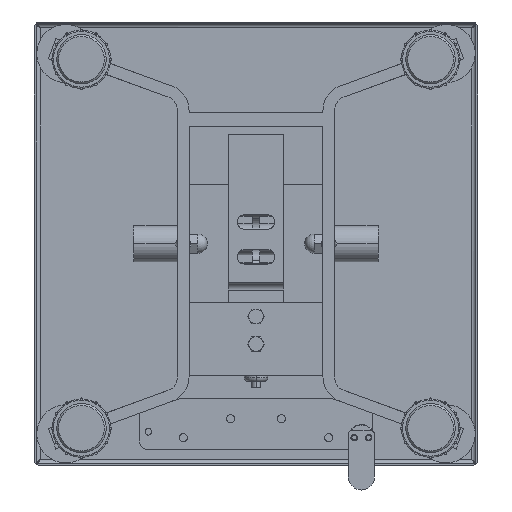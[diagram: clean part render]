
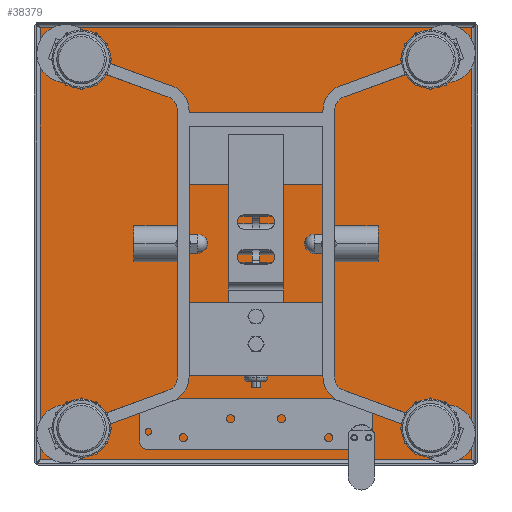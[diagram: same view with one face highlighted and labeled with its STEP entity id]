
A CAD part, front view. The second image highlights one B-rep face of the part: STEP entity #38379.
In plain terms, the highlighted planar face has unit normal (0, -1, 0).
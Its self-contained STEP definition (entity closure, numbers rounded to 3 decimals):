
#36860=DIRECTION('',(1.,0.,0.));
#36861=VECTOR('',#36860,296.9);
#36862=CARTESIAN_POINT('',(-148.45,62.5,148.45));
#36863=LINE('',#36862,#36861);
#36930=CARTESIAN_POINT('',(-148.45,62.5,148.45));
#36938=DIRECTION('',(0.,0.,1.));
#36939=VECTOR('',#36938,296.9);
#36940=CARTESIAN_POINT('',(-148.45,62.5,-148.45));
#36941=LINE('',#36940,#36939);
#36954=CARTESIAN_POINT('',(148.45,62.5,-148.45));
#36962=DIRECTION('',(0.,0.,-1.));
#36963=VECTOR('',#36962,296.9);
#36964=CARTESIAN_POINT('',(148.45,62.5,148.45));
#36965=LINE('',#36964,#36963);
#37103=DIRECTION('',(-1.,0.,0.));
#37104=VECTOR('',#37103,296.9);
#37105=CARTESIAN_POINT('',(148.45,62.5,-148.45));
#37106=LINE('',#37105,#37104);
#37175=CARTESIAN_POINT('',(130.719,62.5,-130.728));
#37176=DIRECTION('',(0.,1.,0.));
#37177=DIRECTION('',(-0.461,0.,0.887));
#37178=AXIS2_PLACEMENT_3D('',#37175,#37176,#37177);
#37180=CARTESIAN_POINT('',(130.719,62.5,-130.728));
#37181=DIRECTION('',(0.,1.,0.));
#37182=DIRECTION('',(0.461,0.,-0.887));
#37183=AXIS2_PLACEMENT_3D('',#37180,#37181,#37182);
#37297=CARTESIAN_POINT('',(-130.719,62.5,-130.728));
#37298=DIRECTION('',(0.,1.,0.));
#37299=DIRECTION('',(-0.461,0.,0.887));
#37300=AXIS2_PLACEMENT_3D('',#37297,#37298,#37299);
#37302=CARTESIAN_POINT('',(-130.719,62.5,-130.728));
#37303=DIRECTION('',(0.,1.,0.));
#37304=DIRECTION('',(0.461,0.,-0.887));
#37305=AXIS2_PLACEMENT_3D('',#37302,#37303,#37304);
#37419=CARTESIAN_POINT('',(130.719,62.5,130.728));
#37420=DIRECTION('',(0.,1.,0.));
#37421=DIRECTION('',(-0.461,0.,0.887));
#37422=AXIS2_PLACEMENT_3D('',#37419,#37420,#37421);
#37424=CARTESIAN_POINT('',(130.719,62.5,130.728));
#37425=DIRECTION('',(0.,1.,0.));
#37426=DIRECTION('',(0.461,0.,-0.887));
#37427=AXIS2_PLACEMENT_3D('',#37424,#37425,#37426);
#37541=CARTESIAN_POINT('',(-130.719,62.5,130.728));
#37542=DIRECTION('',(0.,1.,0.));
#37543=DIRECTION('',(-0.461,0.,0.887));
#37544=AXIS2_PLACEMENT_3D('',#37541,#37542,#37543);
#37546=CARTESIAN_POINT('',(-130.719,62.5,130.728));
#37547=DIRECTION('',(0.,1.,0.));
#37548=DIRECTION('',(0.461,0.,-0.887));
#37549=AXIS2_PLACEMENT_3D('',#37546,#37547,#37548);
#37685=CARTESIAN_POINT('',(-148.45,62.5,-148.45));
#37686=VERTEX_POINT('',#37685);
#37687=VERTEX_POINT('',#36930);
#37702=CARTESIAN_POINT('',(148.45,62.5,148.45));
#37703=VERTEX_POINT('',#37702);
#37704=VERTEX_POINT('',#36954);
#37850=CARTESIAN_POINT('',(123.481,62.5,-116.796));
#37851=CARTESIAN_POINT('',(137.957,62.5,-144.661));
#37852=VERTEX_POINT('',#37850);
#37853=VERTEX_POINT('',#37851);
#37854=CARTESIAN_POINT('',(-137.957,62.5,-116.796));
#37855=CARTESIAN_POINT('',(-123.481,62.5,-144.661));
#37856=VERTEX_POINT('',#37854);
#37857=VERTEX_POINT('',#37855);
#37858=CARTESIAN_POINT('',(123.481,62.5,144.661));
#37859=CARTESIAN_POINT('',(137.957,62.5,116.796));
#37860=VERTEX_POINT('',#37858);
#37861=VERTEX_POINT('',#37859);
#37862=CARTESIAN_POINT('',(-137.957,62.5,144.661));
#37863=CARTESIAN_POINT('',(-123.481,62.5,116.796));
#37864=VERTEX_POINT('',#37862);
#37865=VERTEX_POINT('',#37863);
#38342=CARTESIAN_POINT('',(0.,62.5,0.));
#38343=DIRECTION('',(0.,1.,0.));
#38344=DIRECTION('',(1.,0.,0.));
#38345=AXIS2_PLACEMENT_3D('',#38342,#38343,#38344);
#38346=PLANE('',#38345);
#38348=ORIENTED_EDGE('',*,*,#38347,.T.);
#38350=ORIENTED_EDGE('',*,*,#38349,.T.);
#38351=ORIENTED_EDGE('',*,*,#38327,.T.);
#38352=ORIENTED_EDGE('',*,*,#38095,.T.);
#38353=EDGE_LOOP('',(#38348,#38350,#38351,#38352));
#38354=FACE_OUTER_BOUND('',#38353,.F.);
#38356=ORIENTED_EDGE('',*,*,#38355,.F.);
#38358=ORIENTED_EDGE('',*,*,#38357,.F.);
#38359=EDGE_LOOP('',(#38356,#38358));
#38360=FACE_BOUND('',#38359,.F.);
#38362=ORIENTED_EDGE('',*,*,#38361,.F.);
#38364=ORIENTED_EDGE('',*,*,#38363,.F.);
#38365=EDGE_LOOP('',(#38362,#38364));
#38366=FACE_BOUND('',#38365,.F.);
#38368=ORIENTED_EDGE('',*,*,#38367,.F.);
#38370=ORIENTED_EDGE('',*,*,#38369,.F.);
#38371=EDGE_LOOP('',(#38368,#38370));
#38372=FACE_BOUND('',#38371,.F.);
#38374=ORIENTED_EDGE('',*,*,#38373,.F.);
#38376=ORIENTED_EDGE('',*,*,#38375,.F.);
#38377=EDGE_LOOP('',(#38374,#38376));
#38378=FACE_BOUND('',#38377,.F.);
#38379=ADVANCED_FACE('',(#38354,#38360,#38366,#38372,#38378),#38346,.F.);
#37179=CIRCLE('',#37178,15.7);
#37184=CIRCLE('',#37183,15.7);
#37301=CIRCLE('',#37300,15.7);
#37306=CIRCLE('',#37305,15.7);
#37423=CIRCLE('',#37422,15.7);
#37428=CIRCLE('',#37427,15.7);
#37545=CIRCLE('',#37544,15.7);
#37550=CIRCLE('',#37549,15.7);
#38095=EDGE_CURVE('',#37687,#37703,#36863,.T.);
#38327=EDGE_CURVE('',#37686,#37687,#36941,.T.);
#38347=EDGE_CURVE('',#37703,#37704,#36965,.T.);
#38349=EDGE_CURVE('',#37704,#37686,#37106,.T.);
#38355=EDGE_CURVE('',#37852,#37853,#37179,.T.);
#38357=EDGE_CURVE('',#37853,#37852,#37184,.T.);
#38361=EDGE_CURVE('',#37856,#37857,#37301,.T.);
#38363=EDGE_CURVE('',#37857,#37856,#37306,.T.);
#38367=EDGE_CURVE('',#37860,#37861,#37423,.T.);
#38369=EDGE_CURVE('',#37861,#37860,#37428,.T.);
#38373=EDGE_CURVE('',#37864,#37865,#37545,.T.);
#38375=EDGE_CURVE('',#37865,#37864,#37550,.T.);
